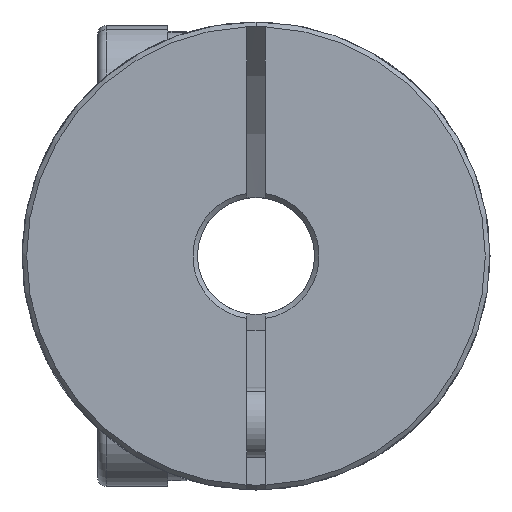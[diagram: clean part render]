
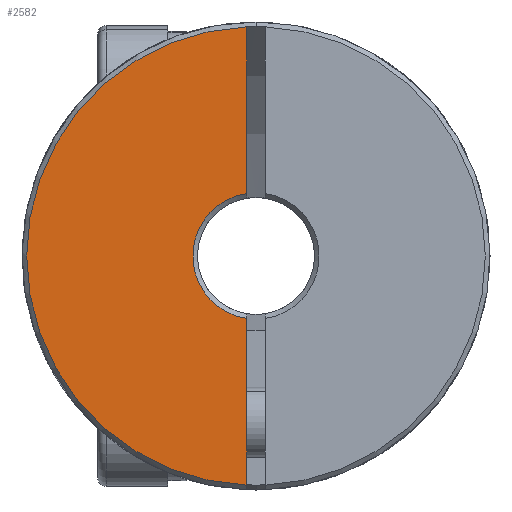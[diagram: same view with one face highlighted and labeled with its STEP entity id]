
A CAD part, front view. The second image highlights one B-rep face of the part: STEP entity #2582.
In plain terms, the highlighted planar face has unit normal (0, -1, 0).
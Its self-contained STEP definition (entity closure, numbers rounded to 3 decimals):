
#25 = VERTEX_POINT ( 'NONE', #3122 ) ;
#60 = EDGE_CURVE ( 'NONE', #25, #3057, #1184, .T. ) ;
#167 = CARTESIAN_POINT ( 'NONE',  ( -0.4, -17.5, 0. ) ) ;
#373 = DIRECTION ( 'NONE',  ( 0., 0., -1. ) ) ;
#488 = ORIENTED_EDGE ( 'NONE', *, *, #2907, .F. ) ;
#580 = CARTESIAN_POINT ( 'NONE',  ( -0.4, -17.5, 9.792 ) ) ;
#719 = PLANE ( 'NONE',  #5150 ) ;
#866 = DIRECTION ( 'NONE',  ( 0., 0., 1. ) ) ;
#1184 = LINE ( 'NONE', #167, #5614 ) ;
#1616 = VERTEX_POINT ( 'NONE', #580 ) ;
#2065 = CARTESIAN_POINT ( 'NONE',  ( -0.4, -17.5, 2.67 ) ) ;
#2154 = ORIENTED_EDGE ( 'NONE', *, *, #2503, .T. ) ;
#2489 = EDGE_LOOP ( 'NONE', ( #488, #2154, #6606, #3800 ) ) ;
#2503 = EDGE_CURVE ( 'NONE', #1616, #3057, #5069, .T. ) ;
#2582 = ADVANCED_FACE ( 'NONE', ( #3344 ), #719, .F. ) ;
#2907 = EDGE_CURVE ( 'NONE', #1616, #3400, #5231, .T. ) ;
#3057 = VERTEX_POINT ( 'NONE', #3977 ) ;
#3122 = CARTESIAN_POINT ( 'NONE',  ( -0.4, -17.5, -2.67 ) ) ;
#3275 = EDGE_CURVE ( 'NONE', #25, #3400, #5224, .T. ) ;
#3344 = FACE_OUTER_BOUND ( 'NONE', #2489, .T. ) ;
#3400 = VERTEX_POINT ( 'NONE', #2065 ) ;
#3437 = DIRECTION ( 'NONE',  ( 0., 0., 1. ) ) ;
#3460 = DIRECTION ( 'NONE',  ( 0., -1., 0. ) ) ;
#3582 = DIRECTION ( 'NONE',  ( 0., 1., 0. ) ) ;
#3800 = ORIENTED_EDGE ( 'NONE', *, *, #3275, .T. ) ;
#3977 = CARTESIAN_POINT ( 'NONE',  ( -0.4, -17.5, -9.792 ) ) ;
#4133 = DIRECTION ( 'NONE',  ( 0., 0., 1. ) ) ;
#4566 = AXIS2_PLACEMENT_3D ( 'NONE', #4881, #5944, #866 ) ;
#4624 = CARTESIAN_POINT ( 'NONE',  ( 0., -17.5, 0. ) ) ;
#4881 = CARTESIAN_POINT ( 'NONE',  ( 0., -17.5, 0. ) ) ;
#5069 = CIRCLE ( 'NONE', #5396, 9.8 ) ;
#5150 = AXIS2_PLACEMENT_3D ( 'NONE', #6448, #3582, #4133 ) ;
#5224 = CIRCLE ( 'NONE', #4566, 2.7 ) ;
#5231 = LINE ( 'NONE', #6721, #6136 ) ;
#5396 = AXIS2_PLACEMENT_3D ( 'NONE', #4624, #3460, #3437 ) ;
#5614 = VECTOR ( 'NONE', #6503, 1000. ) ;
#5944 = DIRECTION ( 'NONE',  ( 0., 1., 0. ) ) ;
#6136 = VECTOR ( 'NONE', #373, 1000. ) ;
#6448 = CARTESIAN_POINT ( 'NONE',  ( 0., -17.5, 0. ) ) ;
#6503 = DIRECTION ( 'NONE',  ( 0., 0., -1. ) ) ;
#6606 = ORIENTED_EDGE ( 'NONE', *, *, #60, .F. ) ;
#6721 = CARTESIAN_POINT ( 'NONE',  ( -0.4, -17.5, 0. ) ) ;
